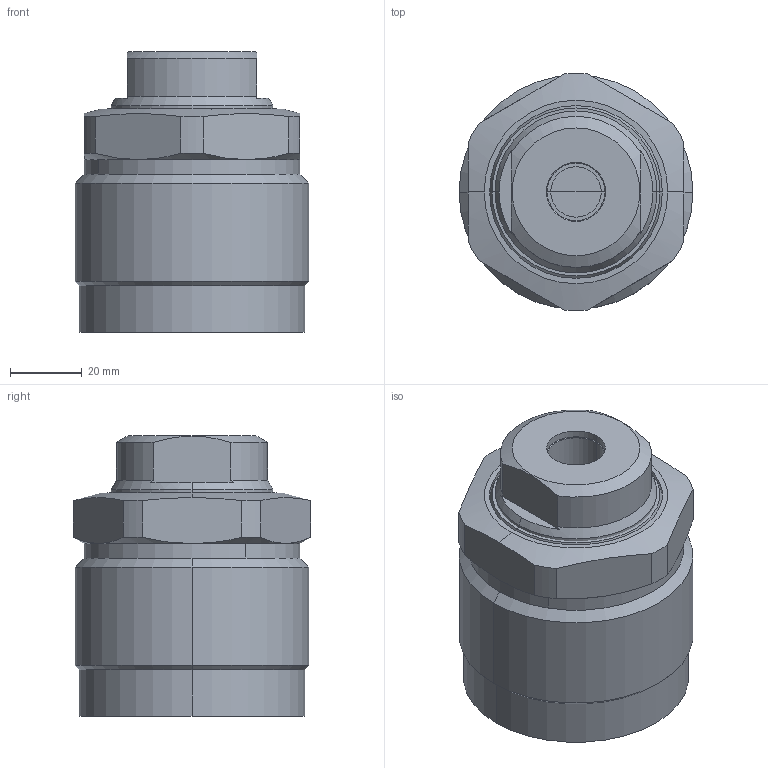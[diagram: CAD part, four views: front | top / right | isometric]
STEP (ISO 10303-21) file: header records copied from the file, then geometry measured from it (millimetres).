
FILE_DESCRIPTION((' '),'2;1');
FILE_NAME( 'TGP65-AS.x_t.stp', '2025-02-10T16:03:58', (' '), ('--- Datakit www.datakit.com---'), ' Datakit CrossCadWare V2024.1 Dec 21 2023', 'Mastercam 2025', ' ');
FILE_SCHEMA(('AUTOMOTIVE_DESIGN { 1 0 10303 214 1 1 1 1 }'));
Length unit declared in the file: millimetre
Products named in the file (1): TGP65-AS
Bounding box: 65 x 65.97 x 78 mm (x, y, z)
Volume: 232765.3 mm3; surface area: 28711.2 mm2
Topology: 2 solids, 2 shells, 83 faces, 204 edges, 128 vertices
Faces by surface type: cylinder 32, cone 28, plane 19, torus 4
Entity records: 2598 total; most frequent: CARTESIAN_POINT 596, DIRECTION 442, ORIENTED_EDGE 400, EDGE_CURVE 200, AXIS2_PLACEMENT_3D 186, VERTEX_POINT 128, CIRCLE 102, EDGE_LOOP 90
